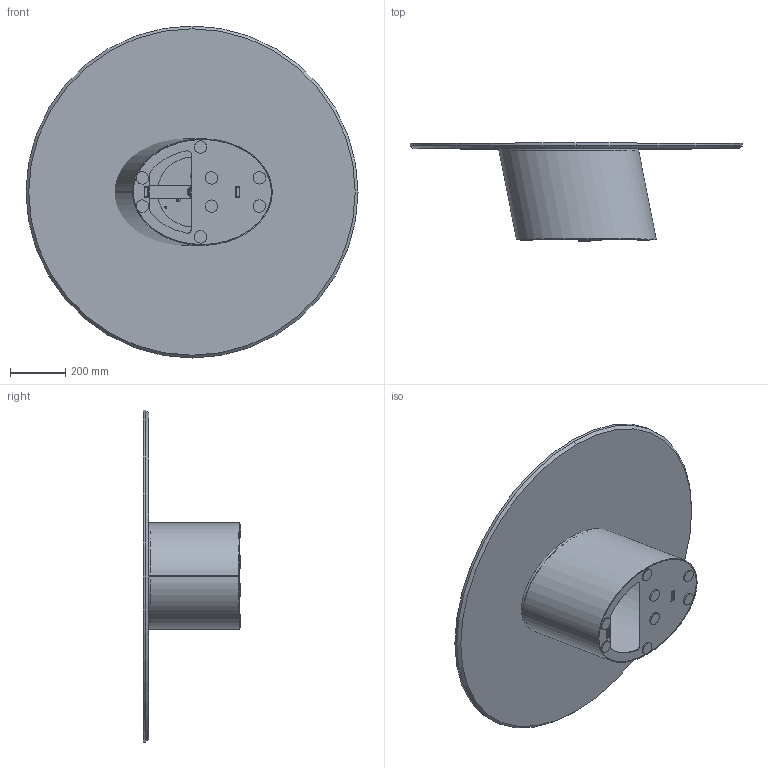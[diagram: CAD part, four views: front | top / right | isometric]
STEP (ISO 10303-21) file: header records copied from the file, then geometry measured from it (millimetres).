
FILE_DESCRIPTION (( 'STEP AP203' ), '1' );
FILE_NAME ('D114M.STEP', '2024-08-07T11:21:36', ( '' ), ( '' ), 'SwSTEP 2.0', 'SolidWorks 2022', '' );
FILE_SCHEMA (( 'CONFIG_CONTROL_DESIGN' ));
Length unit declared in the file: millimetre
Products named in the file (9): Parte matrice basamento DORADO LOW H350_Default<A macchina>; P0000005-00-FILETTO M24 CON FORO H.20mm; M0X-00- D. piani marmo_D.1200; M8xXXmm_M8x24mm; M0XMXX-00-Piani Rotondi in marmo_D.120 CON PIASTRA; D114M; Parte2^Dxxxx-00-DORADO LOW; P0000003-00-STAFFA DI FISSAGGIO DIAMETRO 250_P0000003-250mm normale; M8xXXmm_M8x20mm
Assembly tree (17 placements, depth 3):
  D114M
    Parte matrice basamento DORADO LOW H350_Default<A macchina>
    Parte2^Dxxxx-00-DORADO LOW  x8
    M0XMXX-00-Piani Rotondi in marmo_D.120 CON PIASTRA
      M0X-00- D. piani marmo_D.1200
      P0000003-00-STAFFA DI FISSAGGIO DIAMETRO 250_P0000003-250mm normale
      M8xXXmm_M8x24mm
      P0000005-00-FILETTO M24 CON FORO H.20mm
      M8xXXmm_M8x20mm  x3
Bounding box: 1200 x 353 x 1200 mm (x, y, z)
Volume: 24671510.7 mm3; surface area: 3884646.4 mm2
Topology: 22 solids, 22 shells, 357 faces, 843 edges, 522 vertices
Faces by surface type: plane 142, cylinder 120, cone 62, bspline 17, torus 16
Entity records: 14227 total; most frequent: CARTESIAN_POINT 6912, ORIENTED_EDGE 1290, DIRECTION 1253, EDGE_CURVE 645, AXIS2_PLACEMENT_3D 479, VERTEX_POINT 414, EDGE_LOOP 301, LINE 295
